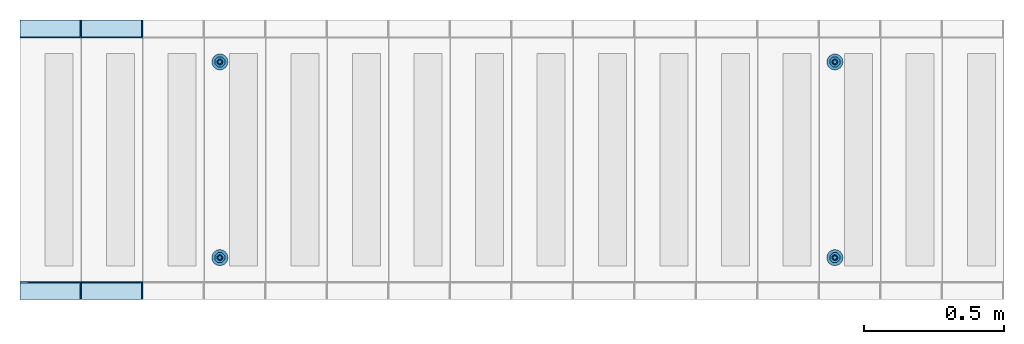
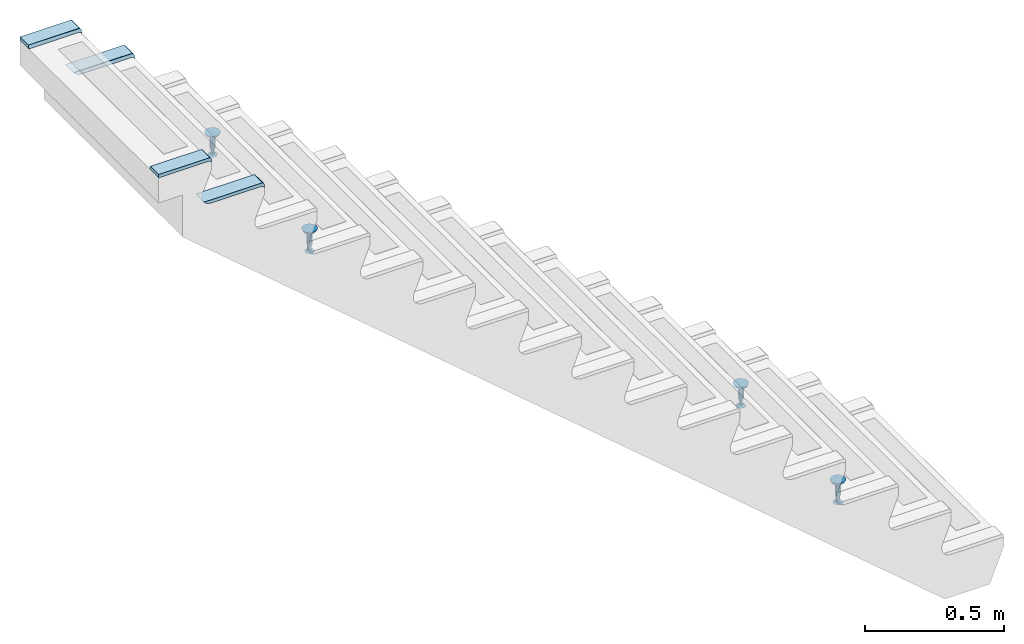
# One storey, part 2 of 4: 8 beams, 4 slabs, 5 elements without a shape of their own.
"""IFC2X3 building model written with IfcOpenShell, lengths in millimetres."""

from ifc_helpers import new_model, si_unit, frame, origin_with_axes, place, context, subcontext, project, spatial, faceted_brep, material, type_object, element, aggregate, save


model = new_model("IFC2X3")

# Units and contexts
model_context = context("Model", 3, precision=1e-05, world=origin_with_axes())
body_context = subcontext(model_context, "Body", "Model", "MODEL_VIEW")
ifc_project = project(units=[si_unit("LENGTHUNIT", "METRE", prefix="MILLI"), si_unit("AREAUNIT", "SQUARE_METRE"), si_unit("VOLUMEUNIT", "CUBIC_METRE"), si_unit("MASSUNIT", "GRAM", prefix="KILO"), si_unit("TIMEUNIT", "SECOND"), si_unit("PLANEANGLEUNIT", "RADIAN"), si_unit("SOLIDANGLEUNIT", "STERADIAN"), si_unit("THERMODYNAMICTEMPERATUREUNIT", "DEGREE_CELSIUS"), si_unit("LUMINOUSINTENSITYUNIT", "LUMEN")], contexts=[model_context])

# Site, building, storey
site_placement = place(None, origin_with_axes())
site = spatial("IfcSite", under=ifc_project, at=site_placement, Name="Undefined", CompositionType="ELEMENT")
building_placement = place(site_placement, origin_with_axes())
building = spatial("IfcBuilding", under=site, at=building_placement, Name="Undefined", CompositionType="ELEMENT")
storey_placement = place(building_placement, origin_with_axes())
storey = spatial("IfcBuildingStorey", under=building, at=storey_placement, Name="Undefined", CompositionType="ELEMENT", Elevation=0.0)

# Assemblies, beams, slabs
assembly_1_placement = place(storey_placement, origin_with_axes())
assembly_1 = element("IfcElementAssembly", 1, at=assembly_1_placement, inside=storey, Name="Trap met bomen", AssemblyPlace="NOTDEFINED", PredefinedType="REINFORCEMENT_UNIT")
assembly_2_placement = place(assembly_1_placement, origin_with_axes())
assembly_2 = element("IfcElementAssembly", 2, at=assembly_2_placement, Name="HBS_anker", AssemblyPlace="NOTDEFINED", PredefinedType="RIGID_FRAME")
ifc_material_1 = material(Name="MISCELLANEOUS/RUBBER_HARD")
beam_type_1 = type_object("IfcBeamType", Name="ELD58*58*50*50", PredefinedType="NOTDEFINED")
beam_1_placement = place(assembly_2_placement, frame((5195.0, 12350.0, 2437.5), z_axis=(-1.0, 0.0, 0.0), x_axis=(0.0, 0.0, -1.0)))
beam_1 = element("IfcBeam", 3, at=beam_1_placement, type_object=beam_type_1, material=ifc_material_1, Name="Spijkerflens", ObjectType="ELD58*58*50*50", context=body_context, shape_type="Brep", body=[
    faceted_brep([(0.0, -29.0, 0.0), (0.0, -26.7925064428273, -11.0978195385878), (10.0, -23.0969883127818, -9.56708580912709), (10.0, -25.0, 0.0), (0.0, -20.5060966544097, -20.5060966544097), (10.0, -17.677669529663, -17.6776695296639), (0.0, -11.0978195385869, -26.7925064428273), (10.0, -9.56708580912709, -23.0969883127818), (0.0, 0.0, -29.0), (10.0, 0.0, -25.0), (0.0, 11.0978195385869, -26.7925064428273), (10.0, 9.56708580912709, -23.0969883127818), (0.0, 20.5060966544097, -20.5060966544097), (10.0, 17.677669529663, -17.6776695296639), (0.0, 26.7925064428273, -11.0978195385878), (10.0, 23.0969883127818, -9.56708580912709), (0.0, 29.0, 0.0), (10.0, 25.0, 0.0), (0.0, 26.7925064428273, 11.0978195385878), (10.0, 23.0969883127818, 9.56708580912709), (0.0, 20.5060966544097, 20.5060966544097), (10.0, 17.677669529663, 17.6776695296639), (0.0, 11.0978195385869, 26.7925064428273), (10.0, 9.56708580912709, 23.0969883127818), (0.0, 0.0, 29.0), (10.0, 0.0, 25.0), (0.0, -11.0978195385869, 26.7925064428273), (10.0, -9.56708580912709, 23.0969883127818), (0.0, -20.5060966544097, 20.5060966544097), (10.0, -17.677669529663, 17.6776695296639), (0.0, -26.7925064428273, 11.0978195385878), (10.0, -23.0969883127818, 9.56708580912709)], [[[0, 1, 2, 3]], [[1, 4, 5, 2]], [[4, 6, 7, 5]], [[6, 8, 9, 7]], [[8, 10, 11, 9]], [[10, 12, 13, 11]], [[12, 14, 15, 13]], [[14, 16, 17, 15]], [[16, 18, 19, 17]], [[18, 20, 21, 19]], [[20, 22, 23, 21]], [[22, 24, 25, 23]], [[24, 26, 27, 25]], [[26, 28, 29, 27]], [[28, 30, 31, 29]], [[30, 0, 3, 31]], [[5, 7, 9, 11, 13, 15, 17, 19, 21, 23, 25, 27, 29, 31, 3, 2]], [[30, 28, 26, 24, 22, 20, 18, 16, 14, 12, 10, 8, 6, 4, 1, 0]]]),
])
assembly_3_placement = place(assembly_1_placement, origin_with_axes())
assembly_3 = element("IfcElementAssembly", 4, at=assembly_3_placement, Name="HBS_anker", AssemblyPlace="NOTDEFINED", PredefinedType="RIGID_FRAME")
beam_2_placement = place(assembly_3_placement, frame((5195.0, 11650.0, 2437.5), z_axis=(-1.0, 0.0, 0.0), x_axis=(0.0, 0.0, -1.0)))
beam_2 = element("IfcBeam", 5, at=beam_2_placement, type_object=beam_type_1, material=ifc_material_1, Name="Spijkerflens", ObjectType="ELD58*58*50*50", context=body_context, shape_type="Brep", body=[
    faceted_brep([(0.0, -29.0, 0.0), (0.0, -26.7925064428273, -11.0978195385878), (10.0, -23.0969883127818, -9.56708580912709), (10.0, -25.0, 0.0), (0.0, -20.5060966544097, -20.5060966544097), (10.0, -17.677669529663, -17.6776695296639), (0.0, -11.0978195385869, -26.7925064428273), (10.0, -9.56708580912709, -23.0969883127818), (0.0, 0.0, -29.0), (10.0, 0.0, -25.0), (0.0, 11.0978195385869, -26.7925064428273), (10.0, 9.56708580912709, -23.0969883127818), (0.0, 20.5060966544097, -20.5060966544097), (10.0, 17.677669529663, -17.6776695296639), (0.0, 26.7925064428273, -11.0978195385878), (10.0, 23.0969883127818, -9.56708580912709), (0.0, 29.0, 0.0), (10.0, 25.0, 0.0), (0.0, 26.7925064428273, 11.0978195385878), (10.0, 23.0969883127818, 9.56708580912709), (0.0, 20.5060966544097, 20.5060966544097), (10.0, 17.677669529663, 17.6776695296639), (0.0, 11.0978195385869, 26.7925064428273), (10.0, 9.56708580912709, 23.0969883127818), (0.0, 0.0, 29.0), (10.0, 0.0, 25.0), (0.0, -11.0978195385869, 26.7925064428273), (10.0, -9.56708580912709, 23.0969883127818), (0.0, -20.5060966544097, 20.5060966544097), (10.0, -17.677669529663, 17.6776695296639), (0.0, -26.7925064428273, 11.0978195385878), (10.0, -23.0969883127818, 9.56708580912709)], [[[0, 1, 2, 3]], [[1, 4, 5, 2]], [[4, 6, 7, 5]], [[6, 8, 9, 7]], [[8, 10, 11, 9]], [[10, 12, 13, 11]], [[12, 14, 15, 13]], [[14, 16, 17, 15]], [[16, 18, 19, 17]], [[18, 20, 21, 19]], [[20, 22, 23, 21]], [[22, 24, 25, 23]], [[24, 26, 27, 25]], [[26, 28, 29, 27]], [[28, 30, 31, 29]], [[30, 0, 3, 31]], [[5, 7, 9, 11, 13, 15, 17, 19, 21, 23, 25, 27, 29, 31, 3, 2]], [[30, 28, 26, 24, 22, 20, 18, 16, 14, 12, 10, 8, 6, 4, 1, 0]]]),
])
assembly_4_placement = place(assembly_1_placement, origin_with_axes())
assembly_4 = element("IfcElementAssembly", 6, at=assembly_4_placement, Name="HBS_anker", AssemblyPlace="NOTDEFINED", PredefinedType="RIGID_FRAME")
beam_3_placement = place(assembly_4_placement, frame((7395.0, 12350.0, 562.500000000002), z_axis=(-1.0, 0.0, 0.0), x_axis=(0.0, 0.0, -1.0)))
beam_3 = element("IfcBeam", 7, at=beam_3_placement, type_object=beam_type_1, material=ifc_material_1, Name="Spijkerflens", ObjectType="ELD58*58*50*50", context=body_context, shape_type="Brep", body=[
    faceted_brep([(0.0, -29.0, 0.0), (0.0, -26.7925064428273, -11.0978195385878), (10.0, -23.0969883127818, -9.56708580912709), (10.0, -25.0, 0.0), (0.0, -20.5060966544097, -20.5060966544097), (10.0, -17.677669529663, -17.6776695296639), (0.0, -11.0978195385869, -26.7925064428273), (10.0, -9.56708580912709, -23.0969883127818), (0.0, 0.0, -29.0), (10.0, 0.0, -25.0), (0.0, 11.0978195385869, -26.7925064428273), (10.0, 9.56708580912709, -23.0969883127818), (0.0, 20.5060966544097, -20.5060966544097), (10.0, 17.677669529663, -17.6776695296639), (0.0, 26.7925064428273, -11.0978195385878), (10.0, 23.0969883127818, -9.56708580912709), (0.0, 29.0, 0.0), (10.0, 25.0, 0.0), (0.0, 26.7925064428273, 11.0978195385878), (10.0, 23.0969883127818, 9.56708580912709), (0.0, 20.5060966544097, 20.5060966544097), (10.0, 17.677669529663, 17.6776695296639), (0.0, 11.0978195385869, 26.7925064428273), (10.0, 9.56708580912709, 23.0969883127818), (0.0, 0.0, 29.0), (10.0, 0.0, 25.0), (0.0, -11.0978195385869, 26.7925064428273), (10.0, -9.56708580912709, 23.0969883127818), (0.0, -20.5060966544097, 20.5060966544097), (10.0, -17.677669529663, 17.6776695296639), (0.0, -26.7925064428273, 11.0978195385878), (10.0, -23.0969883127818, 9.56708580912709)], [[[0, 1, 2, 3]], [[1, 4, 5, 2]], [[4, 6, 7, 5]], [[6, 8, 9, 7]], [[8, 10, 11, 9]], [[10, 12, 13, 11]], [[12, 14, 15, 13]], [[14, 16, 17, 15]], [[16, 18, 19, 17]], [[18, 20, 21, 19]], [[20, 22, 23, 21]], [[22, 24, 25, 23]], [[24, 26, 27, 25]], [[26, 28, 29, 27]], [[28, 30, 31, 29]], [[30, 0, 3, 31]], [[5, 7, 9, 11, 13, 15, 17, 19, 21, 23, 25, 27, 29, 31, 3, 2]], [[30, 28, 26, 24, 22, 20, 18, 16, 14, 12, 10, 8, 6, 4, 1, 0]]]),
])
assembly_5_placement = place(assembly_1_placement, origin_with_axes())
assembly_5 = element("IfcElementAssembly", 8, at=assembly_5_placement, Name="HBS_anker", AssemblyPlace="NOTDEFINED", PredefinedType="RIGID_FRAME")
beam_4_placement = place(assembly_5_placement, frame((7395.0, 11650.0, 562.500000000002), z_axis=(-1.0, 0.0, 0.0), x_axis=(0.0, 0.0, -1.0)))
beam_4 = element("IfcBeam", 9, at=beam_4_placement, type_object=beam_type_1, material=ifc_material_1, Name="Spijkerflens", ObjectType="ELD58*58*50*50", context=body_context, shape_type="Brep", body=[
    faceted_brep([(0.0, -29.0, 0.0), (0.0, -26.7925064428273, -11.0978195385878), (10.0, -23.0969883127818, -9.56708580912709), (10.0, -25.0, 0.0), (0.0, -20.5060966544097, -20.5060966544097), (10.0, -17.677669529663, -17.6776695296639), (0.0, -11.0978195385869, -26.7925064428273), (10.0, -9.56708580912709, -23.0969883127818), (0.0, 0.0, -29.0), (10.0, 0.0, -25.0), (0.0, 11.0978195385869, -26.7925064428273), (10.0, 9.56708580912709, -23.0969883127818), (0.0, 20.5060966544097, -20.5060966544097), (10.0, 17.677669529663, -17.6776695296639), (0.0, 26.7925064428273, -11.0978195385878), (10.0, 23.0969883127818, -9.56708580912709), (0.0, 29.0, 0.0), (10.0, 25.0, 0.0), (0.0, 26.7925064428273, 11.0978195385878), (10.0, 23.0969883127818, 9.56708580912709), (0.0, 20.5060966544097, 20.5060966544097), (10.0, 17.677669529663, 17.6776695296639), (0.0, 11.0978195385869, 26.7925064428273), (10.0, 9.56708580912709, 23.0969883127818), (0.0, 0.0, 29.0), (10.0, 0.0, 25.0), (0.0, -11.0978195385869, 26.7925064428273), (10.0, -9.56708580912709, 23.0969883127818), (0.0, -20.5060966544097, 20.5060966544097), (10.0, -17.677669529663, 17.6776695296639), (0.0, -26.7925064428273, 11.0978195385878), (10.0, -23.0969883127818, 9.56708580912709)], [[[0, 1, 2, 3]], [[1, 4, 5, 2]], [[4, 6, 7, 5]], [[6, 8, 9, 7]], [[8, 10, 11, 9]], [[10, 12, 13, 11]], [[12, 14, 15, 13]], [[14, 16, 17, 15]], [[16, 18, 19, 17]], [[18, 20, 21, 19]], [[20, 22, 23, 21]], [[22, 24, 25, 23]], [[24, 26, 27, 25]], [[26, 28, 29, 27]], [[28, 30, 31, 29]], [[30, 0, 3, 31]], [[5, 7, 9, 11, 13, 15, 17, 19, 21, 23, 25, 27, 29, 31, 3, 2]], [[30, 28, 26, 24, 22, 20, 18, 16, 14, 12, 10, 8, 6, 4, 1, 0]]]),
])
ifc_material_2 = material(Name="STEEL/8.8")
beam_type_2 = type_object("IfcBeamType", Name="D14", PredefinedType="NOTDEFINED")
beam_5_placement = place(assembly_2_placement, frame((5195.0, 12350.0, 2402.5), z_axis=(-1.0, 0.0, 0.0), x_axis=(0.0, 0.0, -1.0)))
beam_5 = element("IfcBeam", 10, at=beam_5_placement, type_object=beam_type_2, material=ifc_material_2, Name="HBS_anker", ObjectType="D14", context=body_context, shape_type="Brep", body=[
    faceted_brep([(-25.0, -5.5, 9.5262794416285), (-25.0, -9.5262794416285, 5.5), (33.0, -9.5262794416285, 5.5), (33.0, -5.5, 9.5262794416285), (-25.0, 0.0, 11.0), (33.0, 0.0, 11.0), (-25.0, 5.5, 9.5262794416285), (33.0, 5.5, 9.5262794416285), (-25.0, 9.5262794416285, 5.5), (33.0, 9.5262794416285, 5.5), (-25.0, 11.0, 0.0), (33.0, 11.0, 0.0), (-25.0, 9.5262794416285, -5.5), (33.0, 9.5262794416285, -5.5), (-25.0, 5.5, -9.5262794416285), (33.0, 5.5, -9.5262794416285), (-25.0, 0.0, -11.0), (33.0, 0.0, -11.0), (-25.0, -5.5, -9.5262794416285), (33.0, -5.5, -9.5262794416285), (-25.0, -9.5262794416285, -5.5), (33.0, -9.5262794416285, -5.5), (-25.0, -11.0, 0.0), (33.0, -11.0, 0.0), (-25.0, -6.92820323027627, -4.0), (-25.0, -4.0, -6.92820323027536), (-25.0, 0.0, -8.0), (-25.0, 4.0, -6.92820323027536), (-25.0, 6.92820323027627, -4.0), (-25.0, 8.0, 0.0), (-25.0, 6.92820323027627, 4.0), (-25.0, 4.0, 6.92820323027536), (-25.0, 0.0, 8.0), (-25.0, -4.0, 6.92820323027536), (-25.0, -6.92820323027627, 4.0), (-25.0, -8.0, 0.0), (33.0, -8.0, 0.0), (33.0, -6.92820323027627, -4.0), (33.0, -4.0, -6.92820323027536), (33.0, 0.0, -8.0), (33.0, 4.0, -6.92820323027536), (33.0, 6.92820323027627, -4.0), (33.0, 8.0, 0.0), (33.0, 6.92820323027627, 4.0), (33.0, 4.0, 6.92820323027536), (33.0, 0.0, 8.0), (33.0, -4.0, 6.92820323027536), (33.0, -6.92820323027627, 4.0), (0.0, -4.94974746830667, 4.94974746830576), (0.0, 0.0, 7.0), (0.0, 4.94974746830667, 4.94974746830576), (0.0, 7.0, 0.0), (0.0, 4.94974746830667, -4.94974746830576), (0.0, 0.0, -7.0), (0.0, -4.94974746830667, -4.94974746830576), (0.0, -7.0, 0.0), (60.0, 4.94974746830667, 4.94974746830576), (60.0, 0.0, 7.0), (60.0, 7.0, 0.0), (60.0, 4.94974746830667, -4.94974746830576), (60.0, 0.0, -7.0), (60.0, -4.94974746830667, -4.94974746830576), (60.0, -7.0, 0.0), (60.0, -4.94974746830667, 4.94974746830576), (60.0, 2.89949493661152, 7.0), (60.0, -2.89949493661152, 7.0), (65.0, -7.2487373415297, 17.5), (65.0, 7.2487373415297, 17.5), (60.0, -7.0, 2.89949493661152), (65.0, -17.5, 7.24873734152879), (60.0, -7.0, -2.89949493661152), (65.0, -17.5, -7.24873734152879), (60.0, -2.89949493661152, -7.0), (65.0, -7.2487373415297, -17.5), (60.0, 2.89949493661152, -7.0), (60.0, 7.0, -2.89949493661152), (60.0, 7.0, 2.89949493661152), (65.0, 17.5, 7.24873734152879), (65.0, 17.5, -7.24873734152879), (65.0, 7.2487373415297, -17.5)], [[[0, 1, 2, 3]], [[4, 0, 3, 5]], [[6, 4, 5, 7]], [[8, 6, 7, 9]], [[10, 8, 9, 11]], [[12, 10, 11, 13]], [[14, 12, 13, 15]], [[16, 14, 15, 17]], [[18, 16, 17, 19]], [[20, 18, 19, 21]], [[22, 20, 21, 23]], [[1, 0, 4, 6, 8, 10, 12, 14, 16, 18, 20, 22], [24, 25, 26, 27, 28, 29, 30, 31, 32, 33, 34, 35]], [[24, 35, 36, 37]], [[25, 24, 37, 38]], [[26, 25, 38, 39]], [[27, 26, 39, 40]], [[28, 27, 40, 41]], [[29, 28, 41, 42]], [[30, 29, 42, 43]], [[31, 30, 43, 44]], [[32, 31, 44, 45]], [[33, 32, 45, 46]], [[34, 33, 46, 47]], [[35, 34, 47, 36]], [[19, 17, 15, 13, 11, 9, 7, 5, 3, 2, 23, 21], [46, 45, 44, 43, 42, 41, 40, 39, 38, 37, 36, 47]], [[1, 22, 23, 2]], [[48, 49, 50, 51, 52, 53, 54, 55]], [[56, 50, 49, 57]], [[58, 51, 50, 56]], [[59, 52, 51, 58]], [[60, 53, 52, 59]], [[61, 54, 53, 60]], [[62, 55, 54, 61]], [[63, 48, 55, 62]], [[57, 49, 48, 63]], [[64, 57, 65, 66, 67]], [[65, 57, 63]], [[65, 63, 68, 69, 66]], [[68, 63, 62]], [[68, 62, 70, 71, 69]], [[70, 62, 61]], [[70, 61, 72, 73, 71]], [[72, 61, 60]], [[74, 60, 59]], [[75, 59, 58]], [[76, 58, 56]], [[75, 58, 76, 77, 78]], [[74, 59, 75, 78, 79]], [[72, 60, 74, 79, 73]], [[78, 77, 67, 66, 69, 71, 73, 79]], [[76, 56, 64, 67, 77]], [[64, 56, 57]]]),
])
aggregate(assembly_2, [beam_1, beam_5])
beam_6_placement = place(assembly_3_placement, frame((5195.0, 11650.0, 2402.5), z_axis=(-1.0, 0.0, 0.0), x_axis=(0.0, 0.0, -1.0)))
beam_6 = element("IfcBeam", 11, at=beam_6_placement, type_object=beam_type_2, material=ifc_material_2, Name="HBS_anker", ObjectType="D14", context=body_context, shape_type="Brep", body=[
    faceted_brep([(-25.0, -5.5, 9.5262794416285), (-25.0, -9.5262794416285, 5.5), (33.0, -9.5262794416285, 5.5), (33.0, -5.5, 9.5262794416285), (-25.0, 0.0, 11.0), (33.0, 0.0, 11.0), (-25.0, 5.5, 9.5262794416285), (33.0, 5.5, 9.5262794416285), (-25.0, 9.5262794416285, 5.5), (33.0, 9.5262794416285, 5.5), (-25.0, 11.0, 0.0), (33.0, 11.0, 0.0), (-25.0, 9.5262794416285, -5.5), (33.0, 9.5262794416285, -5.5), (-25.0, 5.5, -9.5262794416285), (33.0, 5.5, -9.5262794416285), (-25.0, 0.0, -11.0), (33.0, 0.0, -11.0), (-25.0, -5.5, -9.5262794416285), (33.0, -5.5, -9.5262794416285), (-25.0, -9.5262794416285, -5.5), (33.0, -9.5262794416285, -5.5), (-25.0, -11.0, 0.0), (33.0, -11.0, 0.0), (-25.0, -6.92820323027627, -4.0), (-25.0, -4.0, -6.92820323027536), (-25.0, 0.0, -8.0), (-25.0, 4.0, -6.92820323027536), (-25.0, 6.92820323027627, -4.0), (-25.0, 8.0, 0.0), (-25.0, 6.92820323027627, 4.0), (-25.0, 4.0, 6.92820323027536), (-25.0, 0.0, 8.0), (-25.0, -4.0, 6.92820323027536), (-25.0, -6.92820323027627, 4.0), (-25.0, -8.0, 0.0), (33.0, -8.0, 0.0), (33.0, -6.92820323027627, -4.0), (33.0, -4.0, -6.92820323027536), (33.0, 0.0, -8.0), (33.0, 4.0, -6.92820323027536), (33.0, 6.92820323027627, -4.0), (33.0, 8.0, 0.0), (33.0, 6.92820323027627, 4.0), (33.0, 4.0, 6.92820323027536), (33.0, 0.0, 8.0), (33.0, -4.0, 6.92820323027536), (33.0, -6.92820323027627, 4.0), (0.0, -4.94974746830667, 4.94974746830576), (0.0, 0.0, 7.0), (0.0, 4.94974746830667, 4.94974746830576), (0.0, 7.0, 0.0), (0.0, 4.94974746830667, -4.94974746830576), (0.0, 0.0, -7.0), (0.0, -4.94974746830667, -4.94974746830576), (0.0, -7.0, 0.0), (60.0, 4.94974746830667, 4.94974746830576), (60.0, 0.0, 7.0), (60.0, 7.0, 0.0), (60.0, 4.94974746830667, -4.94974746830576), (60.0, 0.0, -7.0), (60.0, -4.94974746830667, -4.94974746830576), (60.0, -7.0, 0.0), (60.0, -4.94974746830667, 4.94974746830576), (60.0, 2.89949493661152, 7.0), (60.0, -2.89949493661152, 7.0), (65.0, -7.2487373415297, 17.5), (65.0, 7.2487373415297, 17.5), (60.0, -7.0, 2.89949493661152), (65.0, -17.5, 7.24873734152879), (60.0, -7.0, -2.89949493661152), (65.0, -17.5, -7.24873734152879), (60.0, -2.89949493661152, -7.0), (65.0, -7.2487373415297, -17.5), (60.0, 2.89949493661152, -7.0), (60.0, 7.0, -2.89949493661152), (60.0, 7.0, 2.89949493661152), (65.0, 17.5, 7.24873734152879), (65.0, 17.5, -7.24873734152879), (65.0, 7.2487373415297, -17.5)], [[[0, 1, 2, 3]], [[4, 0, 3, 5]], [[6, 4, 5, 7]], [[8, 6, 7, 9]], [[10, 8, 9, 11]], [[12, 10, 11, 13]], [[14, 12, 13, 15]], [[16, 14, 15, 17]], [[18, 16, 17, 19]], [[20, 18, 19, 21]], [[22, 20, 21, 23]], [[1, 0, 4, 6, 8, 10, 12, 14, 16, 18, 20, 22], [24, 25, 26, 27, 28, 29, 30, 31, 32, 33, 34, 35]], [[24, 35, 36, 37]], [[25, 24, 37, 38]], [[26, 25, 38, 39]], [[27, 26, 39, 40]], [[28, 27, 40, 41]], [[29, 28, 41, 42]], [[30, 29, 42, 43]], [[31, 30, 43, 44]], [[32, 31, 44, 45]], [[33, 32, 45, 46]], [[34, 33, 46, 47]], [[35, 34, 47, 36]], [[19, 17, 15, 13, 11, 9, 7, 5, 3, 2, 23, 21], [46, 45, 44, 43, 42, 41, 40, 39, 38, 37, 36, 47]], [[1, 22, 23, 2]], [[48, 49, 50, 51, 52, 53, 54, 55]], [[56, 50, 49, 57]], [[58, 51, 50, 56]], [[59, 52, 51, 58]], [[60, 53, 52, 59]], [[61, 54, 53, 60]], [[62, 55, 54, 61]], [[63, 48, 55, 62]], [[57, 49, 48, 63]], [[64, 57, 65, 66, 67]], [[65, 57, 63]], [[65, 63, 68, 69, 66]], [[68, 63, 62]], [[68, 62, 70, 71, 69]], [[70, 62, 61]], [[70, 61, 72, 73, 71]], [[72, 61, 60]], [[74, 60, 59]], [[75, 59, 58]], [[76, 58, 56]], [[75, 58, 76, 77, 78]], [[74, 59, 75, 78, 79]], [[72, 60, 74, 79, 73]], [[78, 77, 67, 66, 69, 71, 73, 79]], [[76, 56, 64, 67, 77]], [[64, 56, 57]]]),
])
aggregate(assembly_3, [beam_2, beam_6])
beam_7_placement = place(assembly_4_placement, frame((7395.0, 12350.0, 527.500000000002), z_axis=(-1.0, 0.0, 0.0), x_axis=(0.0, 0.0, -1.0)))
beam_7 = element("IfcBeam", 12, at=beam_7_placement, type_object=beam_type_2, material=ifc_material_2, Name="HBS_anker", ObjectType="D14", context=body_context, shape_type="Brep", body=[
    faceted_brep([(-25.0, -5.5, 9.5262794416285), (-25.0, -9.5262794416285, 5.5), (33.0, -9.5262794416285, 5.5), (33.0, -5.5, 9.5262794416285), (-25.0, 0.0, 11.0), (33.0, 0.0, 11.0), (-25.0, 5.5, 9.5262794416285), (33.0, 5.5, 9.5262794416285), (-25.0, 9.5262794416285, 5.5), (33.0, 9.5262794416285, 5.5), (-25.0, 11.0, 0.0), (33.0, 11.0, 0.0), (-25.0, 9.5262794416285, -5.5), (33.0, 9.5262794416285, -5.5), (-25.0, 5.5, -9.5262794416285), (33.0, 5.5, -9.5262794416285), (-25.0, 0.0, -11.0), (33.0, 0.0, -11.0), (-25.0, -5.5, -9.5262794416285), (33.0, -5.5, -9.5262794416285), (-25.0, -9.5262794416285, -5.5), (33.0, -9.5262794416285, -5.5), (-25.0, -11.0, 0.0), (33.0, -11.0, 0.0), (-25.0, -6.92820323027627, -4.0), (-25.0, -4.0, -6.92820323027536), (-25.0, 0.0, -8.0), (-25.0, 4.0, -6.92820323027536), (-25.0, 6.92820323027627, -4.0), (-25.0, 8.0, 0.0), (-25.0, 6.92820323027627, 4.0), (-25.0, 4.0, 6.92820323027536), (-25.0, 0.0, 8.0), (-25.0, -4.0, 6.92820323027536), (-25.0, -6.92820323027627, 4.0), (-25.0, -8.0, 0.0), (33.0, -8.0, 0.0), (33.0, -6.92820323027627, -4.0), (33.0, -4.0, -6.92820323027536), (33.0, 0.0, -8.0), (33.0, 4.0, -6.92820323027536), (33.0, 6.92820323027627, -4.0), (33.0, 8.0, 0.0), (33.0, 6.92820323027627, 4.0), (33.0, 4.0, 6.92820323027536), (33.0, 0.0, 8.0), (33.0, -4.0, 6.92820323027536), (33.0, -6.92820323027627, 4.0), (0.0, -4.94974746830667, 4.94974746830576), (0.0, 0.0, 7.0), (0.0, 4.94974746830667, 4.94974746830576), (0.0, 7.0, 0.0), (0.0, 4.94974746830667, -4.94974746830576), (0.0, 0.0, -7.0), (0.0, -4.94974746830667, -4.94974746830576), (0.0, -7.0, 0.0), (60.0, 4.94974746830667, 4.94974746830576), (60.0, 0.0, 7.0), (60.0, 7.0, 0.0), (60.0, 4.94974746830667, -4.94974746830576), (60.0, 0.0, -7.0), (60.0, -4.94974746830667, -4.94974746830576), (60.0, -7.0, 0.0), (60.0, -4.94974746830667, 4.94974746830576), (60.0, 2.89949493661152, 7.0), (60.0, -2.89949493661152, 7.0), (65.0, -7.2487373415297, 17.5), (65.0, 7.2487373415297, 17.5), (60.0, -7.0, 2.89949493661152), (65.0, -17.5, 7.24873734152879), (60.0, -7.0, -2.89949493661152), (65.0, -17.5, -7.24873734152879), (60.0, -2.89949493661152, -7.0), (65.0, -7.2487373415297, -17.5), (60.0, 2.89949493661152, -7.0), (60.0, 7.0, -2.89949493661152), (60.0, 7.0, 2.89949493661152), (65.0, 17.5, 7.24873734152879), (65.0, 17.5, -7.24873734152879), (65.0, 7.2487373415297, -17.5)], [[[0, 1, 2, 3]], [[4, 0, 3, 5]], [[6, 4, 5, 7]], [[8, 6, 7, 9]], [[10, 8, 9, 11]], [[12, 10, 11, 13]], [[14, 12, 13, 15]], [[16, 14, 15, 17]], [[18, 16, 17, 19]], [[20, 18, 19, 21]], [[22, 20, 21, 23]], [[1, 0, 4, 6, 8, 10, 12, 14, 16, 18, 20, 22], [24, 25, 26, 27, 28, 29, 30, 31, 32, 33, 34, 35]], [[24, 35, 36, 37]], [[25, 24, 37, 38]], [[26, 25, 38, 39]], [[27, 26, 39, 40]], [[28, 27, 40, 41]], [[29, 28, 41, 42]], [[30, 29, 42, 43]], [[31, 30, 43, 44]], [[32, 31, 44, 45]], [[33, 32, 45, 46]], [[34, 33, 46, 47]], [[35, 34, 47, 36]], [[19, 17, 15, 13, 11, 9, 7, 5, 3, 2, 23, 21], [46, 45, 44, 43, 42, 41, 40, 39, 38, 37, 36, 47]], [[1, 22, 23, 2]], [[48, 49, 50, 51, 52, 53, 54, 55]], [[56, 50, 49, 57]], [[58, 51, 50, 56]], [[59, 52, 51, 58]], [[60, 53, 52, 59]], [[61, 54, 53, 60]], [[62, 55, 54, 61]], [[63, 48, 55, 62]], [[57, 49, 48, 63]], [[64, 57, 65, 66, 67]], [[65, 57, 63]], [[65, 63, 68, 69, 66]], [[68, 63, 62]], [[68, 62, 70, 71, 69]], [[70, 62, 61]], [[70, 61, 72, 73, 71]], [[72, 61, 60]], [[74, 60, 59]], [[75, 59, 58]], [[76, 58, 56]], [[75, 58, 76, 77, 78]], [[74, 59, 75, 78, 79]], [[72, 60, 74, 79, 73]], [[78, 77, 67, 66, 69, 71, 73, 79]], [[76, 56, 64, 67, 77]], [[64, 56, 57]]]),
])
aggregate(assembly_4, [beam_3, beam_7])
beam_8_placement = place(assembly_5_placement, frame((7395.0, 11650.0, 527.500000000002), z_axis=(-1.0, 0.0, 0.0), x_axis=(0.0, 0.0, -1.0)))
beam_8 = element("IfcBeam", 13, at=beam_8_placement, type_object=beam_type_2, material=ifc_material_2, Name="HBS_anker", ObjectType="D14", context=body_context, shape_type="Brep", body=[
    faceted_brep([(-25.0, -5.5, 9.5262794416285), (-25.0, -9.5262794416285, 5.5), (33.0, -9.5262794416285, 5.5), (33.0, -5.5, 9.5262794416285), (-25.0, 0.0, 11.0), (33.0, 0.0, 11.0), (-25.0, 5.5, 9.5262794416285), (33.0, 5.5, 9.5262794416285), (-25.0, 9.5262794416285, 5.5), (33.0, 9.5262794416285, 5.5), (-25.0, 11.0, 0.0), (33.0, 11.0, 0.0), (-25.0, 9.5262794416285, -5.5), (33.0, 9.5262794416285, -5.5), (-25.0, 5.5, -9.5262794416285), (33.0, 5.5, -9.5262794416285), (-25.0, 0.0, -11.0), (33.0, 0.0, -11.0), (-25.0, -5.5, -9.5262794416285), (33.0, -5.5, -9.5262794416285), (-25.0, -9.5262794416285, -5.5), (33.0, -9.5262794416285, -5.5), (-25.0, -11.0, 0.0), (33.0, -11.0, 0.0), (-25.0, -6.92820323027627, -4.0), (-25.0, -4.0, -6.92820323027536), (-25.0, 0.0, -8.0), (-25.0, 4.0, -6.92820323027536), (-25.0, 6.92820323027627, -4.0), (-25.0, 8.0, 0.0), (-25.0, 6.92820323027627, 4.0), (-25.0, 4.0, 6.92820323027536), (-25.0, 0.0, 8.0), (-25.0, -4.0, 6.92820323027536), (-25.0, -6.92820323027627, 4.0), (-25.0, -8.0, 0.0), (33.0, -8.0, 0.0), (33.0, -6.92820323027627, -4.0), (33.0, -4.0, -6.92820323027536), (33.0, 0.0, -8.0), (33.0, 4.0, -6.92820323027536), (33.0, 6.92820323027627, -4.0), (33.0, 8.0, 0.0), (33.0, 6.92820323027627, 4.0), (33.0, 4.0, 6.92820323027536), (33.0, 0.0, 8.0), (33.0, -4.0, 6.92820323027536), (33.0, -6.92820323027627, 4.0), (0.0, -4.94974746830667, 4.94974746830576), (0.0, 0.0, 7.0), (0.0, 4.94974746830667, 4.94974746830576), (0.0, 7.0, 0.0), (0.0, 4.94974746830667, -4.94974746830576), (0.0, 0.0, -7.0), (0.0, -4.94974746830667, -4.94974746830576), (0.0, -7.0, 0.0), (60.0, 4.94974746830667, 4.94974746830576), (60.0, 0.0, 7.0), (60.0, 7.0, 0.0), (60.0, 4.94974746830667, -4.94974746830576), (60.0, 0.0, -7.0), (60.0, -4.94974746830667, -4.94974746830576), (60.0, -7.0, 0.0), (60.0, -4.94974746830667, 4.94974746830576), (60.0, 2.89949493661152, 7.0), (60.0, -2.89949493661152, 7.0), (65.0, -7.2487373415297, 17.5), (65.0, 7.2487373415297, 17.5), (60.0, -7.0, 2.89949493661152), (65.0, -17.5, 7.24873734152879), (60.0, -7.0, -2.89949493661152), (65.0, -17.5, -7.24873734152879), (60.0, -2.89949493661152, -7.0), (65.0, -7.2487373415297, -17.5), (60.0, 2.89949493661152, -7.0), (60.0, 7.0, -2.89949493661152), (60.0, 7.0, 2.89949493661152), (65.0, 17.5, 7.24873734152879), (65.0, 17.5, -7.24873734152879), (65.0, 7.2487373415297, -17.5)], [[[0, 1, 2, 3]], [[4, 0, 3, 5]], [[6, 4, 5, 7]], [[8, 6, 7, 9]], [[10, 8, 9, 11]], [[12, 10, 11, 13]], [[14, 12, 13, 15]], [[16, 14, 15, 17]], [[18, 16, 17, 19]], [[20, 18, 19, 21]], [[22, 20, 21, 23]], [[1, 0, 4, 6, 8, 10, 12, 14, 16, 18, 20, 22], [24, 25, 26, 27, 28, 29, 30, 31, 32, 33, 34, 35]], [[24, 35, 36, 37]], [[25, 24, 37, 38]], [[26, 25, 38, 39]], [[27, 26, 39, 40]], [[28, 27, 40, 41]], [[29, 28, 41, 42]], [[30, 29, 42, 43]], [[31, 30, 43, 44]], [[32, 31, 44, 45]], [[33, 32, 45, 46]], [[34, 33, 46, 47]], [[35, 34, 47, 36]], [[19, 17, 15, 13, 11, 9, 7, 5, 3, 2, 23, 21], [46, 45, 44, 43, 42, 41, 40, 39, 38, 37, 36, 47]], [[1, 22, 23, 2]], [[48, 49, 50, 51, 52, 53, 54, 55]], [[56, 50, 49, 57]], [[58, 51, 50, 56]], [[59, 52, 51, 58]], [[60, 53, 52, 59]], [[61, 54, 53, 60]], [[62, 55, 54, 61]], [[63, 48, 55, 62]], [[57, 49, 48, 63]], [[64, 57, 65, 66, 67]], [[65, 57, 63]], [[65, 63, 68, 69, 66]], [[68, 63, 62]], [[68, 62, 70, 71, 69]], [[70, 62, 61]], [[70, 61, 72, 73, 71]], [[72, 61, 60]], [[74, 60, 59]], [[75, 59, 58]], [[76, 58, 56]], [[75, 58, 76, 77, 78]], [[74, 59, 75, 78, 79]], [[72, 60, 74, 79, 73]], [[78, 77, 67, 66, 69, 71, 73, 79]], [[76, 56, 64, 67, 77]], [[64, 56, 57]]]),
])
aggregate(assembly_5, [beam_4, beam_8])
ifc_material_3 = material(Name="CONCRETE/C55/67")
slab_type = type_object("IfcSlabType", Name="60*25", PredefinedType="NOTDEFINED")
slab_1_placement = place(assembly_1_placement, frame((4700.0, 11530.0, 3015.0), z_axis=(0.0, -1.0, 0.0), x_axis=(-1.0, 0.0, 0.0)))
slab_1 = element("IfcSlab", 14, at=slab_1_placement, type_object=slab_type, material=ifc_material_3, Name="Ridge", ObjectType="60*25", PredefinedType="FLOOR", context=body_context, shape_type="Brep", body=[
    faceted_brep([(10.0, 0.0, -30.0), (6.17316567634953, 0.761204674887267, -30.6698729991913), (220.0, 0.0, -30.0), (2.92893218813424, 2.9289321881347, -31.3397459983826), (0.761204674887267, 6.17316567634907, -32.0096189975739), (0.0, 10.0, -32.6794919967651), (220.0, 15.0, -34.0192379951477), (10.0, 15.0, -34.0192379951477), (6.17316567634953, 15.7612046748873, -34.689110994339), (2.92893218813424, 17.9289321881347, -35.3589839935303), (0.761204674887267, 21.1731656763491, -36.0288569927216), (0.0, 10.0, 30.0), (0.0, 25.0, 30.0), (0.0, 25.0, -36.6987299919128), (0.761204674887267, 21.1731656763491, 30.0), (2.92893218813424, 17.9289321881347, 30.0), (6.17316567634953, 15.7612046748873, 30.0), (10.0, 15.0, 30.0), (220.0, 15.0, 30.0), (220.0, 0.0, 30.0), (10.0, 0.0, 30.0), (6.17316567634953, 0.761204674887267, 30.0), (2.92893218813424, 2.9289321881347, 30.0), (0.761204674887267, 6.17316567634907, 30.0)], [[[0, 1, 2]], [[3, 2, 1]], [[4, 2, 3]], [[5, 2, 4]], [[6, 2, 5]], [[7, 6, 5]], [[8, 7, 5]], [[9, 8, 5]], [[10, 9, 5]], [[11, 12, 13, 5]], [[12, 14, 10, 13]], [[14, 15, 9, 10]], [[15, 16, 8, 9]], [[16, 17, 7, 8]], [[17, 18, 6, 7]], [[18, 19, 2, 6]], [[19, 20, 0, 2]], [[20, 21, 1, 0]], [[21, 22, 3, 1]], [[22, 23, 4, 3]], [[23, 11, 5, 4]], [[13, 10, 5]], [[23, 22, 21, 20, 19, 18, 17, 16, 15, 14, 12, 11]]]),
])
slab_2_placement = place(assembly_1_placement, frame((4700.0, 12470.0, 3015.0), z_axis=(0.0, -1.0, 0.0), x_axis=(-1.0, 0.0, 0.0)))
slab_2 = element("IfcSlab", 15, at=slab_2_placement, type_object=slab_type, material=ifc_material_3, Name="Ridge", ObjectType="60*25", PredefinedType="FLOOR", context=body_context, shape_type="Brep", body=[
    faceted_brep([(0.0, 25.0, 36.6987299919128), (0.0, 10.0, 32.6794919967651), (0.761204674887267, 21.1731656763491, 36.0288569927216), (2.92893218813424, 17.9289321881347, 35.3589839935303), (10.0, 15.0, 34.0192379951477), (220.0, 15.0, 34.0192379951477), (2.92893218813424, 2.9289321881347, 31.3397459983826), (0.761204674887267, 6.17316567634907, 32.0096189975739), (6.17316567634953, 0.761204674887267, 30.6698729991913), (220.0, 0.0, 30.0), (10.0, 0.0, 30.0), (6.17316567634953, 15.7612046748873, 34.689110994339), (0.0, 25.0, -30.0), (0.0, 10.0, -30.0), (0.761204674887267, 21.1731656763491, -30.0), (2.92893218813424, 17.9289321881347, -30.0), (6.17316567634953, 15.7612046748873, -30.0), (10.0, 15.0, -30.0), (220.0, 15.0, -30.0), (220.0, 0.0, -30.0), (10.0, 0.0, -30.0), (6.17316567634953, 0.761204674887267, -30.0), (2.92893218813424, 2.9289321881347, -30.0), (0.761204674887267, 6.17316567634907, -30.0)], [[[0, 1, 2]], [[3, 2, 1]], [[4, 1, 5]], [[6, 5, 7]], [[8, 5, 6]], [[9, 5, 8]], [[10, 9, 8]], [[11, 1, 4]], [[11, 3, 1]], [[1, 0, 12, 13]], [[0, 2, 14, 12]], [[2, 3, 15, 14]], [[3, 11, 16, 15]], [[11, 4, 17, 16]], [[4, 5, 18, 17]], [[5, 9, 19, 18]], [[9, 10, 20, 19]], [[10, 8, 21, 20]], [[8, 6, 22, 21]], [[6, 7, 23, 22]], [[7, 1, 13, 23]], [[14, 15, 16, 17, 18, 19, 20, 21, 22, 23, 13, 12]], [[7, 5, 1]]]),
])
slab_3_placement = place(assembly_1_placement, frame((4920.0, 11530.0, 2827.5), z_axis=(0.0, -1.0, 0.0), x_axis=(-1.0, 0.0, 0.0)))
slab_3 = element("IfcSlab", 16, at=slab_3_placement, type_object=slab_type, material=ifc_material_3, Name="Ridge", ObjectType="60*25", PredefinedType="FLOOR", context=body_context, shape_type="Brep", body=[
    faceted_brep([(10.0, 0.0, -30.0), (6.17316567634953, 0.761204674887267, -30.6698729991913), (251.224989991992, 0.0, -30.0), (2.92893218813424, 2.9289321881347, -31.3397459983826), (0.761204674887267, 6.17316567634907, -32.0096189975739), (244.894224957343, 6.30938459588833, -31.648201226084), (0.0, 10.0, -32.6794919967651), (237.320508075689, 11.0555127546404, -32.467074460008), (228.881989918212, 14.0014135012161, -33.2859476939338), (220.0, 15.0, -34.0192379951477), (10.0, 15.0, -34.0192379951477), (6.17316567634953, 15.7612046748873, -34.689110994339), (2.92893218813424, 17.9289321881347, -35.3589839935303), (0.761204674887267, 21.1731656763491, -36.0288569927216), (0.0, 10.0, 30.0), (0.0, 25.0, 30.0), (0.0, 25.0, -36.6987299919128), (0.761204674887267, 21.1731656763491, 30.0), (2.92893218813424, 17.9289321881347, 30.0), (6.17316567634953, 15.7612046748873, 30.0), (10.0, 15.0, 30.0), (220.0, 15.0, 30.0), (228.881989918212, 14.0014135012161, 30.0), (237.320508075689, 11.0555127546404, 30.0), (244.894224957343, 6.30938459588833, 30.0), (251.224989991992, 0.0, 30.0), (10.0, 0.0, 30.0), (6.17316567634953, 0.761204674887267, 30.0), (2.92893218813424, 2.9289321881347, 30.0), (0.761204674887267, 6.17316567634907, 30.0)], [[[0, 1, 2]], [[3, 2, 1]], [[4, 2, 3]], [[5, 2, 4]], [[6, 5, 4]], [[7, 5, 6]], [[8, 7, 6]], [[9, 8, 6]], [[10, 9, 6]], [[11, 10, 6]], [[12, 11, 6]], [[13, 12, 6]], [[14, 15, 16, 6]], [[15, 17, 13, 16]], [[17, 18, 12, 13]], [[18, 19, 11, 12]], [[19, 20, 10, 11]], [[20, 21, 9, 10]], [[21, 22, 8, 9]], [[22, 23, 7, 8]], [[23, 24, 5, 7]], [[24, 25, 2, 5]], [[25, 26, 0, 2]], [[26, 27, 1, 0]], [[27, 28, 3, 1]], [[28, 29, 4, 3]], [[29, 14, 6, 4]], [[16, 13, 6]], [[29, 28, 27, 26, 25, 24, 23, 22, 21, 20, 19, 18, 17, 15, 14]]]),
])
slab_4_placement = place(assembly_1_placement, frame((4920.0, 12470.0, 2827.5), z_axis=(0.0, -1.0, 0.0), x_axis=(-1.0, 0.0, 0.0)))
slab_4 = element("IfcSlab", 17, at=slab_4_placement, type_object=slab_type, material=ifc_material_3, Name="Ridge", ObjectType="60*25", PredefinedType="FLOOR", context=body_context, shape_type="Brep", body=[
    faceted_brep([(220.0, 15.0, 34.0192379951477), (10.0, 15.0, 34.0192379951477), (228.881989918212, 14.0014135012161, 33.2859476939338), (0.0, 25.0, 36.6987299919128), (0.0, 10.0, 32.6794919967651), (0.761204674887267, 21.1731656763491, 36.0288569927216), (2.92893218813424, 17.9289321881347, 35.3589839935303), (6.17316567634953, 15.7612046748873, 34.689110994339), (237.320508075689, 11.0555127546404, 32.467074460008), (244.894224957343, 6.30938459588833, 31.648201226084), (2.92893218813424, 2.9289321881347, 31.3397459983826), (0.761204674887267, 6.17316567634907, 32.0096189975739), (6.17316567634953, 0.761204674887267, 30.6698729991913), (251.224989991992, 0.0, 30.0), (10.0, 0.0, 30.0), (0.0, 25.0, -30.0), (0.0, 10.0, -30.0), (0.761204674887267, 21.1731656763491, -30.0), (2.92893218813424, 17.9289321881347, -30.0), (6.17316567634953, 15.7612046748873, -30.0), (10.0, 15.0, -30.0), (220.0, 15.0, -30.0), (228.881989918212, 14.0014135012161, -30.0), (237.320508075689, 11.0555127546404, -30.0), (244.894224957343, 6.30938459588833, -30.0), (251.224989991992, 0.0, -30.0), (10.0, 0.0, -30.0), (6.17316567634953, 0.761204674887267, -30.0), (2.92893218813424, 2.9289321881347, -30.0), (0.761204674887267, 6.17316567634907, -30.0)], [[[0, 1, 2]], [[3, 4, 5]], [[6, 5, 4]], [[7, 6, 4]], [[7, 4, 1]], [[8, 2, 1]], [[8, 1, 4]], [[9, 8, 4]], [[10, 9, 11]], [[12, 9, 10]], [[13, 9, 12]], [[14, 13, 12]], [[4, 3, 15, 16]], [[3, 5, 17, 15]], [[5, 6, 18, 17]], [[6, 7, 19, 18]], [[7, 1, 20, 19]], [[1, 0, 21, 20]], [[0, 2, 22, 21]], [[2, 8, 23, 22]], [[8, 9, 24, 23]], [[9, 13, 25, 24]], [[13, 14, 26, 25]], [[14, 12, 27, 26]], [[12, 10, 28, 27]], [[10, 11, 29, 28]], [[11, 4, 16, 29]], [[17, 18, 19, 20, 21, 22, 23, 24, 25, 26, 27, 28, 29, 16, 15]], [[11, 9, 4]]]),
])
aggregate(assembly_1, [assembly_2, assembly_3, assembly_4, assembly_5, slab_1, slab_2, slab_3, slab_4])

save(model, "model.ifc")
